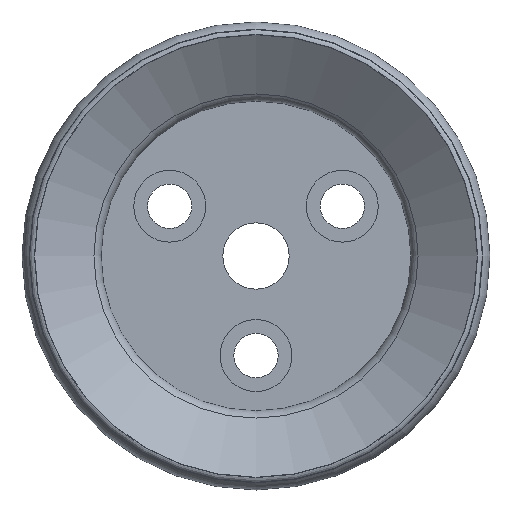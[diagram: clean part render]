
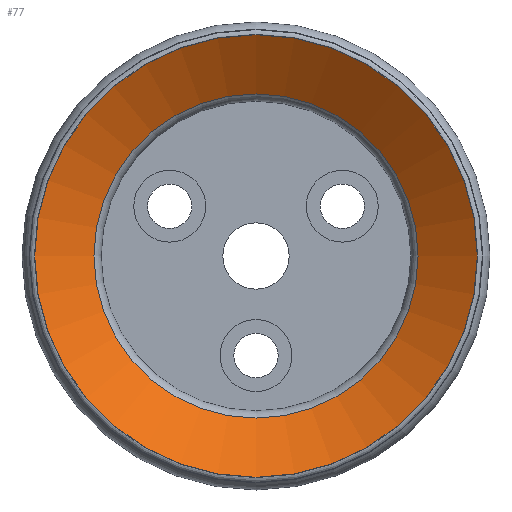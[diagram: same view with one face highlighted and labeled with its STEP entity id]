
A CAD part, front view. The second image highlights one B-rep face of the part: STEP entity #77.
In plain terms, the highlighted conical face has half-angle 55.376 degrees and reference radius 14.648 mm.
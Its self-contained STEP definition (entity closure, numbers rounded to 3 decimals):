
#12 = EDGE_CURVE ( 'NONE', #627, #627, #90, .T. ) ;
#75 = DIRECTION ( 'NONE',  ( 1., 0., 0. ) ) ;
#77 = ADVANCED_FACE ( 'NONE', ( #317, #143 ), #423, .F. ) ;
#78 = ORIENTED_EDGE ( 'NONE', *, *, #328, .F. ) ;
#90 = CIRCLE ( 'NONE', #464, 20. ) ;
#122 = CARTESIAN_POINT ( 'NONE',  ( 0., 3.696, 0. ) ) ;
#139 = VERTEX_POINT ( 'NONE', #179 ) ;
#143 = FACE_BOUND ( 'NONE', #458, .T. ) ;
#146 = DIRECTION ( 'NONE',  ( 0., -1., 0. ) ) ;
#172 = CARTESIAN_POINT ( 'NONE',  ( 20., 0., 0. ) ) ;
#179 = CARTESIAN_POINT ( 'NONE',  ( 14.648, 3.696, 0. ) ) ;
#201 = ORIENTED_EDGE ( 'NONE', *, *, #12, .T. ) ;
#248 = AXIS2_PLACEMENT_3D ( 'NONE', #122, #514, #75 ) ;
#262 = CARTESIAN_POINT ( 'NONE',  ( 0., 0., 0. ) ) ;
#317 = FACE_OUTER_BOUND ( 'NONE', #404, .T. ) ;
#324 = CARTESIAN_POINT ( 'NONE',  ( 0., 3.696, 0. ) ) ;
#328 = EDGE_CURVE ( 'NONE', #139, #139, #529, .T. ) ;
#329 = DIRECTION ( 'NONE',  ( 0., -1., 0. ) ) ;
#404 = EDGE_LOOP ( 'NONE', ( #201 ) ) ;
#423 = CONICAL_SURFACE ( 'NONE', #517, 14.648, 0.966 ) ;
#458 = EDGE_LOOP ( 'NONE', ( #78 ) ) ;
#464 = AXIS2_PLACEMENT_3D ( 'NONE', #262, #329, #481 ) ;
#481 = DIRECTION ( 'NONE',  ( 1., 0., 0. ) ) ;
#514 = DIRECTION ( 'NONE',  ( 0., -1., 0. ) ) ;
#517 = AXIS2_PLACEMENT_3D ( 'NONE', #324, #146, #534 ) ;
#529 = CIRCLE ( 'NONE', #248, 14.648 ) ;
#534 = DIRECTION ( 'NONE',  ( -1., 0., 0. ) ) ;
#627 = VERTEX_POINT ( 'NONE', #172 ) ;
